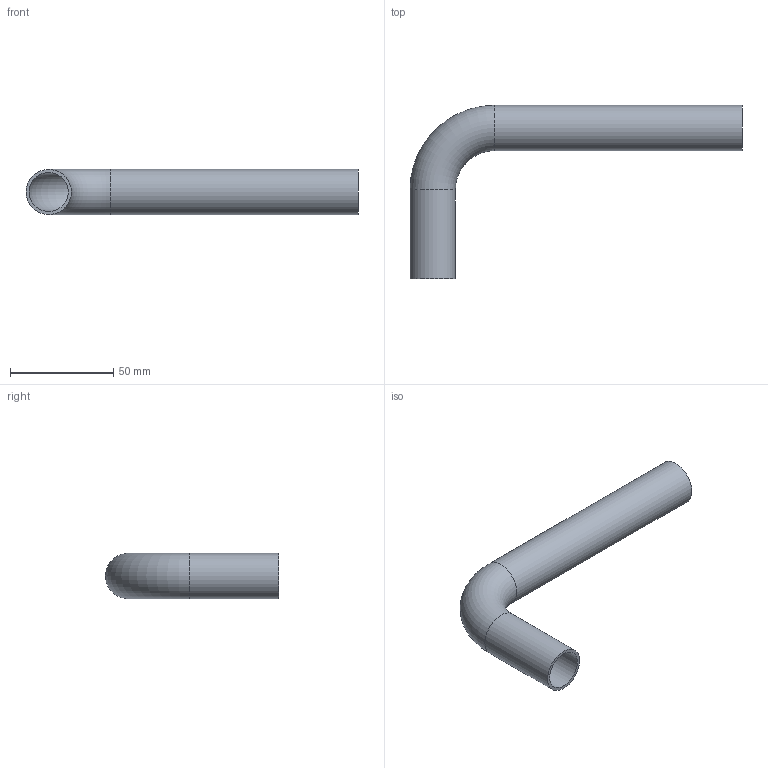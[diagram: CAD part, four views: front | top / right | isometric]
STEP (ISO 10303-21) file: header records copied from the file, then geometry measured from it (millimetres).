
FILE_DESCRIPTION((''),'2;1');
FILE_NAME('G:\Technics\CAD\Bauteile\022\6900322(1).stp','2008-02-18T10:56:02',('herberg'),(''),'Autodesk Inventor 2008','Autodesk Inventor 2008','');
FILE_SCHEMA(('AUTOMOTIVE_DESIGN { 1 0 10303 214 1 1 1 1 }'));
Length unit declared in the file: millimetre
Products named in the file (1): 6900322(1)
Bounding box: 161 x 84 x 22 mm (x, y, z)
Volume: 20298.8 mm3; surface area: 27258.3 mm2
Topology: 1 solids, 1 shells, 8 faces, 14 edges, 8 vertices
Faces by surface type: cylinder 4, torus 2, plane 2
Full cylindrical faces by diameter (mm): 19 x2, 22 x2
Entity records: 194 total; most frequent: DIRECTION 34, CARTESIAN_POINT 25, AXIS2_PLACEMENT_3D 17, ORIENTED_EDGE 16, EDGE_LOOP 16, VERTEX_POINT 8, CIRCLE 8, EDGE_CURVE 8
